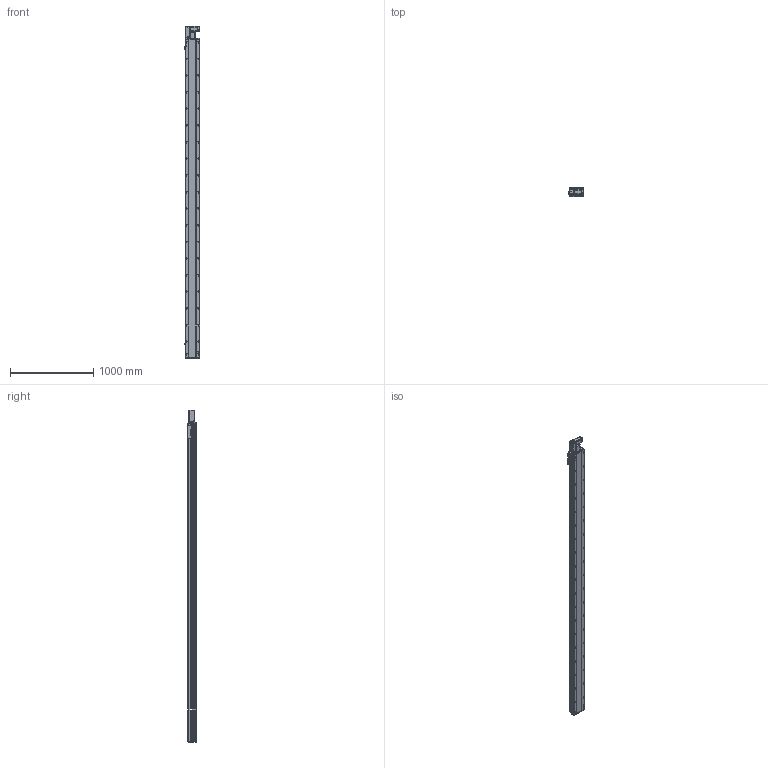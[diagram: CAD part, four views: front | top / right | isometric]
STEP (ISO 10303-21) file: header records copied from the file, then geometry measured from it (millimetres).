
FILE_DESCRIPTION (( 'STEP AP214' ), '1' );
FILE_NAME ('RTB17S-XX-3550-L-M40-C4.STEP', '2025-12-11T06:09:26', ( '' ), ( '' ), 'SwSTEP 2.0', 'SolidWorks 2018', '' );
FILE_SCHEMA (( 'AUTOMOTIVE_DESIGN' ));
Length unit declared in the file: millimetre
Products named in the file (14): OMRON EE-SX672 传感器^RTB17S-XX-XX-L-M40-C4; RTB17S-L-々湍釱蚾饜-400W^RTB17S-XX-XX-L-M40-C4; RTB17-R-011菁釱^RTB17S-XX-XX-L-M40-C4; RTB14-L-018P^RTB17S-L-々湍釱蚾饜-400W_RTB17S-XX-XX-L-M40-C4; RMP17S-L-014-T20--々湍釱^RTB17S-L-々湍釱蚾饜-400W_RTB17S-XX-XX-L-M40-C4; RTB14-L-005P--轴承塑胶压盖^RTB17S-L-皮带座装配-400W_RTB17S-XX-XX-L-M40-C4; RTB14-L-017P^RTB17S-L-々湍釱蚾饜-400W_RTB17S-XX-XX-L-M40-C4; RTB17S-L-004佪裝蹟譫蟀諉釱^RTB17S-XX-XX-L-M40-C4; 400W侜督萇儂^RTB17S-XX-XX-L-M40-C4; RTB14-L-008-M20--萇儂啣^RTB17S-L-々湍釱蚾饜-400W_RTB17S-XX-XX-L-M40-C4; RTH13-BL-012覜茼え俋离^RTB17S-XX-XX-L-M40-C4; RTB17S-XX-3550-L-M40-C4; RTB17S-L-007奻裔^RTB17S-XX-XX-L-M40-C4; RTB17S-L-001耜醱啣^RTB17S-XX-XX-L-M40-C4
Assembly tree (16 placements, depth 3):
  RTB17S-XX-3550-L-M40-C4
    RTB17-R-011菁釱^RTB17S-XX-XX-L-M40-C4
    RTB17S-L-007奻裔^RTB17S-XX-XX-L-M40-C4
    OMRON EE-SX672 传感器^RTB17S-XX-XX-L-M40-C4  x3
    RTB17S-L-001耜醱啣^RTB17S-XX-XX-L-M40-C4
    400W侜督萇儂^RTB17S-XX-XX-L-M40-C4
    RTB17S-L-004佪裝蹟譫蟀諉釱^RTB17S-XX-XX-L-M40-C4
    RTH13-BL-012覜茼え俋离^RTB17S-XX-XX-L-M40-C4
    RTB17S-L-々湍釱蚾饜-400W^RTB17S-XX-XX-L-M40-C4
      RMP17S-L-014-T20--々湍釱^RTB17S-L-々湍釱蚾饜-400W_RTB17S-XX-XX-L-M40-C4
      RTB14-L-005P--轴承塑胶压盖^RTB17S-L-皮带座装配-400W_RTB17S-XX-XX-L-M40-C4
      RTB14-L-008-M20--萇儂啣^RTB17S-L-々湍釱蚾饜-400W_RTB17S-XX-XX-L-M40-C4
      RTB14-L-017P^RTB17S-L-々湍釱蚾饜-400W_RTB17S-XX-XX-L-M40-C4  x2
      RTB14-L-018P^RTB17S-L-々湍釱蚾饜-400W_RTB17S-XX-XX-L-M40-C4
Bounding box: 186 x 108 x 3991 mm (x, y, z)
Volume: 33169372.2 mm3; surface area: 3765757.9 mm2
Topology: 15 solids, 15 shells, 2413 faces, 6789 edges, 4437 vertices
Faces by surface type: plane 1094, cylinder 871, bspline 301, cone 139, torus 8
Entity records: 72617 total; most frequent: CARTESIAN_POINT 20794, ORIENTED_EDGE 10422, DIRECTION 9566, EDGE_CURVE 5211, VERTEX_POINT 3425, AXIS2_PLACEMENT_3D 3355, LINE 2856, VECTOR 2856
